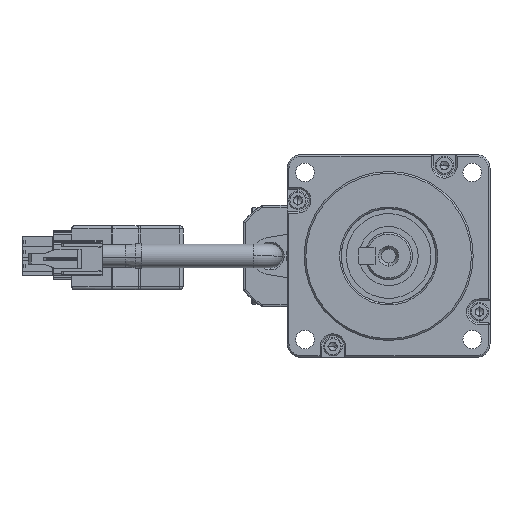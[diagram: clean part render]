
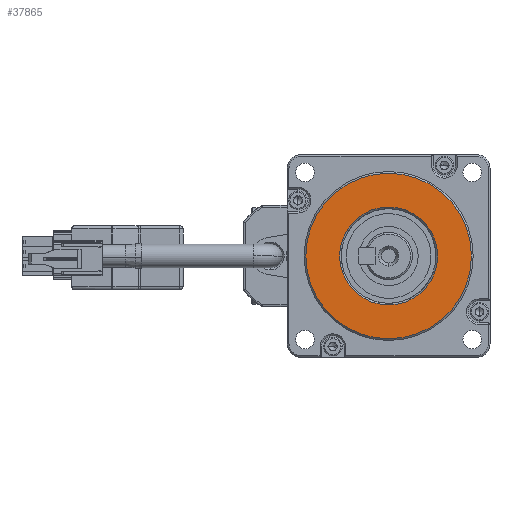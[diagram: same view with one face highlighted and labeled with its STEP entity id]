
A CAD part, left-side view. The second image highlights one B-rep face of the part: STEP entity #37865.
In plain terms, the highlighted planar face has unit normal (-1, 0, 0).
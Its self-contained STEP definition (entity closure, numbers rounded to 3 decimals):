
#4592 = EDGE_CURVE ( 'NONE', #15932, #9314, #25066, .T. ) ;
#4662 = CARTESIAN_POINT ( 'NONE',  ( -5.4, 0., -24.5 ) ) ;
#6382 = CARTESIAN_POINT ( 'NONE',  ( -5.4, 0., 0. ) ) ;
#8045 = CIRCLE ( 'NONE', #12048, 24.5 ) ;
#9305 = CARTESIAN_POINT ( 'NONE',  ( -5.4, 0., 0. ) ) ;
#9314 = VERTEX_POINT ( 'NONE', #45118 ) ;
#9955 = DIRECTION ( 'NONE',  ( 0., 0., -1. ) ) ;
#12048 = AXIS2_PLACEMENT_3D ( 'NONE', #17903, #42541, #21482 ) ;
#13221 = DIRECTION ( 'NONE',  ( 1., 0., 0. ) ) ;
#13304 = CARTESIAN_POINT ( 'NONE',  ( -5.4, 0., -14.5 ) ) ;
#15090 = CARTESIAN_POINT ( 'NONE',  ( -5.4, 0., 0. ) ) ;
#15932 = VERTEX_POINT ( 'NONE', #13304 ) ;
#16128 = EDGE_CURVE ( 'NONE', #36750, #18630, #8045, .T. ) ;
#16337 = DIRECTION ( 'NONE',  ( 1., 0., 0. ) ) ;
#16842 = ORIENTED_EDGE ( 'NONE', *, *, #27946, .T. ) ;
#17373 = ORIENTED_EDGE ( 'NONE', *, *, #4592, .T. ) ;
#17903 = CARTESIAN_POINT ( 'NONE',  ( -5.4, 0., 0. ) ) ;
#18243 = ORIENTED_EDGE ( 'NONE', *, *, #45683, .T. ) ;
#18630 = VERTEX_POINT ( 'NONE', #4662 ) ;
#18643 = DIRECTION ( 'NONE',  ( 0., 0., -1. ) ) ;
#20685 = CIRCLE ( 'NONE', #37914, 24.5 ) ;
#21482 = DIRECTION ( 'NONE',  ( 0., 0., -1. ) ) ;
#22363 = ORIENTED_EDGE ( 'NONE', *, *, #16128, .T. ) ;
#24909 = CIRCLE ( 'NONE', #28969, 14.5 ) ;
#25066 = CIRCLE ( 'NONE', #34902, 14.5 ) ;
#26487 = FACE_BOUND ( 'NONE', #33228, .T. ) ;
#26577 = CARTESIAN_POINT ( 'NONE',  ( -5.4, 0., 24.5 ) ) ;
#26657 = AXIS2_PLACEMENT_3D ( 'NONE', #9305, #13221, #37885 ) ;
#27225 = PLANE ( 'NONE',  #26657 ) ;
#27607 = FACE_OUTER_BOUND ( 'NONE', #29901, .T. ) ;
#27946 = EDGE_CURVE ( 'NONE', #9314, #15932, #24909, .T. ) ;
#28969 = AXIS2_PLACEMENT_3D ( 'NONE', #37467, #16337, #40980 ) ;
#29901 = EDGE_LOOP ( 'NONE', ( #18243, #22363 ) ) ;
#31084 = DIRECTION ( 'NONE',  ( 1., 0., 0. ) ) ;
#33228 = EDGE_LOOP ( 'NONE', ( #16842, #17373 ) ) ;
#34902 = AXIS2_PLACEMENT_3D ( 'NONE', #6382, #31084, #9955 ) ;
#36750 = VERTEX_POINT ( 'NONE', #26577 ) ;
#37467 = CARTESIAN_POINT ( 'NONE',  ( -5.4, 0., 0. ) ) ;
#37865 = ADVANCED_FACE ( 'NONE', ( #26487, #27607 ), #27225, .F. ) ;
#37885 = DIRECTION ( 'NONE',  ( 0., 0., -1. ) ) ;
#37914 = AXIS2_PLACEMENT_3D ( 'NONE', #15090, #39745, #18643 ) ;
#39745 = DIRECTION ( 'NONE',  ( -1., 0., 0. ) ) ;
#40980 = DIRECTION ( 'NONE',  ( 0., 0., -1. ) ) ;
#42541 = DIRECTION ( 'NONE',  ( -1., 0., 0. ) ) ;
#45118 = CARTESIAN_POINT ( 'NONE',  ( -5.4, 0., 14.5 ) ) ;
#45683 = EDGE_CURVE ( 'NONE', #18630, #36750, #20685, .T. ) ;
